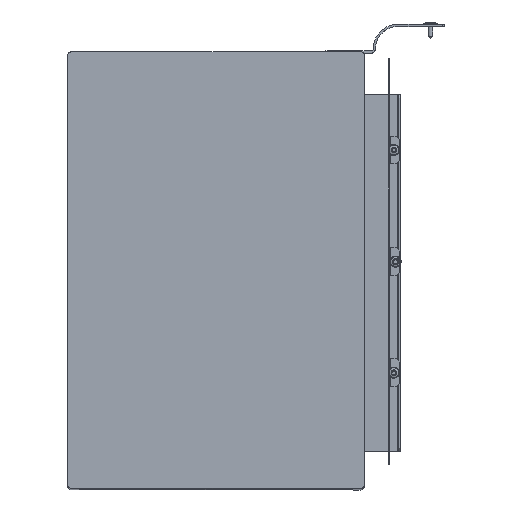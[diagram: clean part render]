
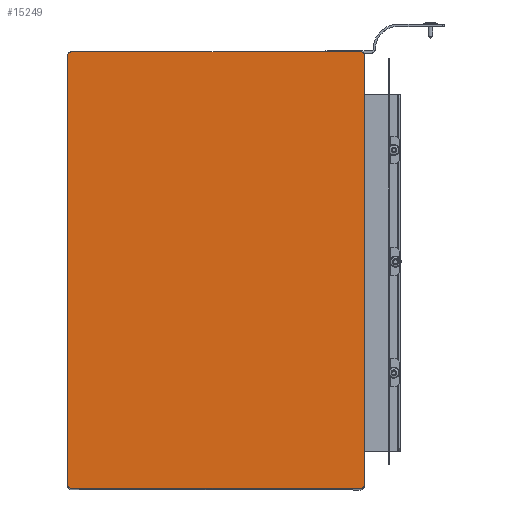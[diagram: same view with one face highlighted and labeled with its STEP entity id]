
A CAD part, top view. The second image highlights one B-rep face of the part: STEP entity #15249.
In plain terms, the highlighted planar face has unit normal (0, 0, 1).
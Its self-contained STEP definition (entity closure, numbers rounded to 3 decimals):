
#1196=CIRCLE('',#17537,4.);
#1197=CIRCLE('',#17538,4.);
#1198=CIRCLE('',#17539,4.);
#1199=CIRCLE('',#17540,4.);
#4251=ORIENTED_EDGE('',*,*,#7059,.T.);
#4252=ORIENTED_EDGE('',*,*,#7069,.T.);
#4253=ORIENTED_EDGE('',*,*,#7061,.T.);
#4254=ORIENTED_EDGE('',*,*,#7070,.T.);
#4255=ORIENTED_EDGE('',*,*,#7067,.T.);
#4256=ORIENTED_EDGE('',*,*,#7071,.T.);
#4257=ORIENTED_EDGE('',*,*,#7055,.T.);
#4258=ORIENTED_EDGE('',*,*,#7072,.T.);
#7055=EDGE_CURVE('',#8709,#8708,#10031,.T.);
#7059=EDGE_CURVE('',#8713,#8712,#10035,.T.);
#7061=EDGE_CURVE('',#8714,#8715,#10037,.T.);
#7067=EDGE_CURVE('',#8721,#8720,#10043,.T.);
#7069=EDGE_CURVE('',#8712,#8714,#1196,.T.);
#7070=EDGE_CURVE('',#8715,#8721,#1197,.T.);
#7071=EDGE_CURVE('',#8720,#8709,#1198,.T.);
#7072=EDGE_CURVE('',#8708,#8713,#1199,.T.);
#8708=VERTEX_POINT('',#25863);
#8709=VERTEX_POINT('',#25865);
#8712=VERTEX_POINT('',#25872);
#8713=VERTEX_POINT('',#25874);
#8714=VERTEX_POINT('',#25878);
#8715=VERTEX_POINT('',#25879);
#8720=VERTEX_POINT('',#25890);
#8721=VERTEX_POINT('',#25892);
#10031=LINE('',#25864,#11245);
#10035=LINE('',#25873,#11249);
#10037=LINE('',#25877,#11251);
#10043=LINE('',#25891,#11257);
#11245=VECTOR('',#21075,1000.);
#11249=VECTOR('',#21081,1000.);
#11251=VECTOR('',#21085,1000.);
#11257=VECTOR('',#21093,1000.);
#12419=EDGE_LOOP('',(#4251,#4252,#4253,#4254,#4255,#4256,#4257,#4258));
#13671=FACE_BOUND('',#12419,.T.);
#14519=PLANE('',#17536);
#15249=ADVANCED_FACE('',(#13671),#14519,.T.);
#17536=AXIS2_PLACEMENT_3D('',#25894,#21095,#21096);
#17537=AXIS2_PLACEMENT_3D('',#25895,#21097,#21098);
#17538=AXIS2_PLACEMENT_3D('',#25896,#21099,#21100);
#17539=AXIS2_PLACEMENT_3D('',#25897,#21101,#21102);
#17540=AXIS2_PLACEMENT_3D('',#25898,#21103,#21104);
#21075=DIRECTION('',(0.,-1.,0.));
#21081=DIRECTION('',(1.,0.,0.));
#21085=DIRECTION('',(0.,1.,0.));
#21093=DIRECTION('',(-1.,0.,0.));
#21095=DIRECTION('',(0.,0.,1.));
#21096=DIRECTION('',(1.,0.,0.));
#21097=DIRECTION('',(0.,0.,1.));
#21098=DIRECTION('',(1.,0.,0.));
#21099=DIRECTION('',(0.,0.,1.));
#21100=DIRECTION('',(1.,0.,0.));
#21101=DIRECTION('',(0.,0.,1.));
#21102=DIRECTION('',(1.,0.,0.));
#21103=DIRECTION('',(0.,0.,1.));
#21104=DIRECTION('',(1.,0.,0.));
#25863=CARTESIAN_POINT('',(-133.75,-192.,6.));
#25864=CARTESIAN_POINT('',(-133.75,196.,6.));
#25865=CARTESIAN_POINT('',(-133.75,192.,6.));
#25872=CARTESIAN_POINT('',(129.75,-196.,6.));
#25873=CARTESIAN_POINT('',(-133.75,-196.,6.));
#25874=CARTESIAN_POINT('',(-129.75,-196.,6.));
#25877=CARTESIAN_POINT('',(133.75,-196.,6.));
#25878=CARTESIAN_POINT('',(133.75,-192.,6.));
#25879=CARTESIAN_POINT('',(133.75,192.,6.));
#25890=CARTESIAN_POINT('',(-129.75,196.,6.));
#25891=CARTESIAN_POINT('',(133.75,196.,6.));
#25892=CARTESIAN_POINT('',(129.75,196.,6.));
#25894=CARTESIAN_POINT('',(-133.75,-196.,6.));
#25895=CARTESIAN_POINT('',(129.75,-192.,6.));
#25896=CARTESIAN_POINT('',(129.75,192.,6.));
#25897=CARTESIAN_POINT('',(-129.75,192.,6.));
#25898=CARTESIAN_POINT('',(-129.75,-192.,6.));
